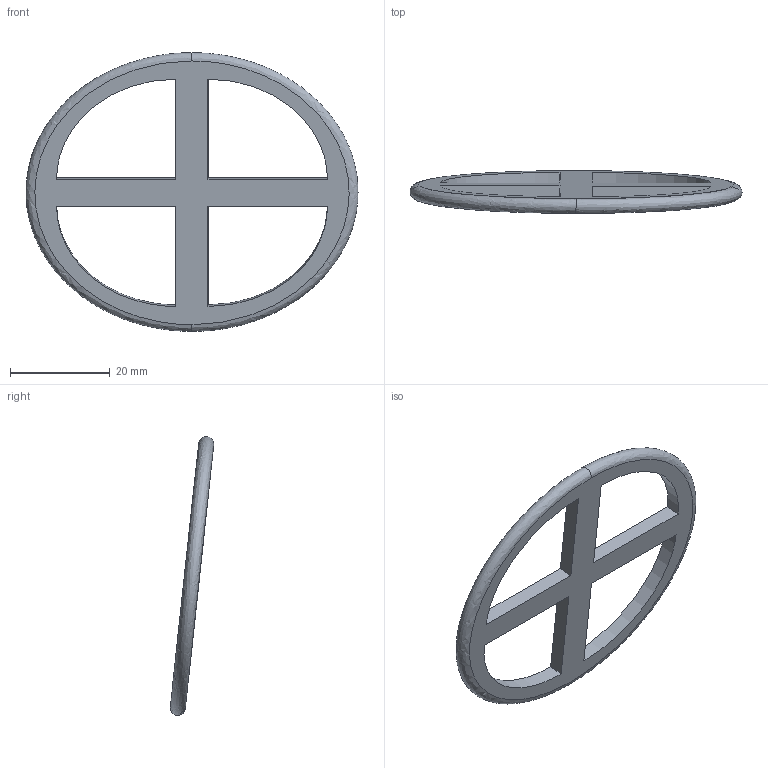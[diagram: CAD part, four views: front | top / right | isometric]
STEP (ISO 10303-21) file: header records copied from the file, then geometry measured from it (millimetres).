
FILE_DESCRIPTION(/* description */ (''),/* implementation_level */ '2;1');
FILE_NAME(/* name */ 'M-MEDI~3',/* time_stamp */ '2020-04-10T21:36:16+03:00',/* author */ (''),/* organization */ (''),/* preprocessor_version */ 'ST-DEVELOPER v16.5',/* originating_system */ '',/* authorisation */ '');
FILE_SCHEMA (('AUTOMOTIVE_DESIGN'));
Length unit declared in the file: millimetre
Products named in the file (1): Document
Bounding box: 66.73 x 8.72 x 56.03 mm (x, y, z)
Volume: 4074.8 mm3; surface area: 4118.5 mm2
Topology: 1 solids, 1 shells, 18 faces, 46 edges, 30 vertices
Faces by surface type: plane 10, bspline 8
Entity records: 1332 total; most frequent: CARTESIAN_POINT 1006, ORIENTED_EDGE 92, EDGE_CURVE 46, VERTEX_POINT 30, EDGE_LOOP 26, B_SPLINE_CURVE_WITH_KNOTS 24, ADVANCED_FACE 18, FACE_OUTER_BOUND 18
